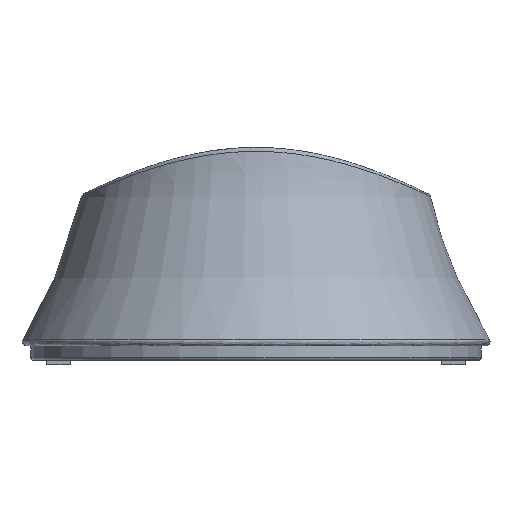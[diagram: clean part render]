
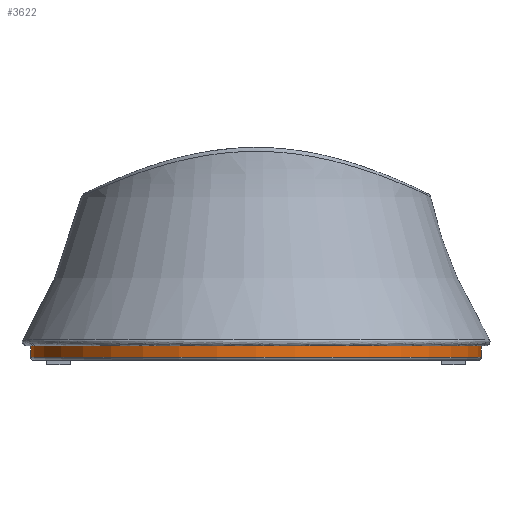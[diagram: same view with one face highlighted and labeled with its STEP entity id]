
A CAD part, front view. The second image highlights one B-rep face of the part: STEP entity #3622.
In plain terms, the highlighted cylindrical face has radius 15.65 mm (diameter 31.3 mm), a full revolution.
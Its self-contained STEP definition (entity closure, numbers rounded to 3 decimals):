
#1660 = PLANE('',#1661);
#1661 = AXIS2_PLACEMENT_3D('',#1662,#1663,#1664);
#1662 = CARTESIAN_POINT('',(0.,0.,149.));
#1663 = DIRECTION('',(0.,0.,1.));
#1664 = DIRECTION('',(1.,0.,-0.));
#2265 = EDGE_CURVE('',#2266,#2266,#2268,.T.);
#2266 = VERTEX_POINT('',#2267);
#2267 = CARTESIAN_POINT('',(15.65,0.,149.));
#2268 = SURFACE_CURVE('',#2269,(#2274,#2281),.PCURVE_S1.);
#2269 = CIRCLE('',#2270,15.65);
#2270 = AXIS2_PLACEMENT_3D('',#2271,#2272,#2273);
#2271 = CARTESIAN_POINT('',(0.,0.,149.));
#2272 = DIRECTION('',(0.,0.,1.));
#2273 = DIRECTION('',(1.,0.,-0.));
#2274 = PCURVE('',#1660,#2275);
#2275 = DEFINITIONAL_REPRESENTATION('',(#2276),#2280);
#2276 = CIRCLE('',#2277,15.65);
#2277 = AXIS2_PLACEMENT_2D('',#2278,#2279);
#2278 = CARTESIAN_POINT('',(0.,0.));
#2279 = DIRECTION('',(1.,-0.));
#2280 = ( GEOMETRIC_REPRESENTATION_CONTEXT(2) 
PARAMETRIC_REPRESENTATION_CONTEXT() REPRESENTATION_CONTEXT('2D SPACE',''
  ) );
#2281 = PCURVE('',#2282,#2287);
#2282 = CYLINDRICAL_SURFACE('',#2283,15.65);
#2283 = AXIS2_PLACEMENT_3D('',#2284,#2285,#2286);
#2284 = CARTESIAN_POINT('',(0.,0.,148.));
#2285 = DIRECTION('',(0.,0.,1.));
#2286 = DIRECTION('',(1.,0.,-0.));
#2287 = DEFINITIONAL_REPRESENTATION('',(#2288),#2292);
#2288 = LINE('',#2289,#2290);
#2289 = CARTESIAN_POINT('',(0.,1.));
#2290 = VECTOR('',#2291,1.);
#2291 = DIRECTION('',(1.,0.));
#2292 = ( GEOMETRIC_REPRESENTATION_CONTEXT(2) 
PARAMETRIC_REPRESENTATION_CONTEXT() REPRESENTATION_CONTEXT('2D SPACE',''
  ) );
#3622 = ADVANCED_FACE('',(#3623),#2282,.T.);
#3623 = FACE_BOUND('',#3624,.T.);
#3624 = EDGE_LOOP('',(#3625,#3654,#3675,#3676));
#3625 = ORIENTED_EDGE('',*,*,#3626,.T.);
#3626 = EDGE_CURVE('',#3627,#3627,#3629,.T.);
#3627 = VERTEX_POINT('',#3628);
#3628 = CARTESIAN_POINT('',(15.65,0.,148.2));
#3629 = SURFACE_CURVE('',#3630,(#3635,#3642),.PCURVE_S1.);
#3630 = CIRCLE('',#3631,15.65);
#3631 = AXIS2_PLACEMENT_3D('',#3632,#3633,#3634);
#3632 = CARTESIAN_POINT('',(0.,0.,148.2));
#3633 = DIRECTION('',(0.,0.,1.));
#3634 = DIRECTION('',(1.,0.,-0.));
#3635 = PCURVE('',#2282,#3636);
#3636 = DEFINITIONAL_REPRESENTATION('',(#3637),#3641);
#3637 = LINE('',#3638,#3639);
#3638 = CARTESIAN_POINT('',(0.,0.2));
#3639 = VECTOR('',#3640,1.);
#3640 = DIRECTION('',(1.,0.));
#3641 = ( GEOMETRIC_REPRESENTATION_CONTEXT(2) 
PARAMETRIC_REPRESENTATION_CONTEXT() REPRESENTATION_CONTEXT('2D SPACE',''
  ) );
#3642 = PCURVE('',#3643,#3648);
#3643 = TOROIDAL_SURFACE('',#3644,15.45,0.2);
#3644 = AXIS2_PLACEMENT_3D('',#3645,#3646,#3647);
#3645 = CARTESIAN_POINT('',(0.,0.,148.2));
#3646 = DIRECTION('',(-0.,-0.,-1.));
#3647 = DIRECTION('',(1.,0.,-0.));
#3648 = DEFINITIONAL_REPRESENTATION('',(#3649),#3653);
#3649 = LINE('',#3650,#3651);
#3650 = CARTESIAN_POINT('',(-0.,0.));
#3651 = VECTOR('',#3652,1.);
#3652 = DIRECTION('',(-1.,0.));
#3653 = ( GEOMETRIC_REPRESENTATION_CONTEXT(2) 
PARAMETRIC_REPRESENTATION_CONTEXT() REPRESENTATION_CONTEXT('2D SPACE',''
  ) );
#3654 = ORIENTED_EDGE('',*,*,#3655,.T.);
#3655 = EDGE_CURVE('',#3627,#2266,#3656,.T.);
#3656 = SEAM_CURVE('',#3657,(#3661,#3668),.PCURVE_S1.);
#3657 = LINE('',#3658,#3659);
#3658 = CARTESIAN_POINT('',(15.65,0.,148.));
#3659 = VECTOR('',#3660,1.);
#3660 = DIRECTION('',(0.,0.,1.));
#3661 = PCURVE('',#2282,#3662);
#3662 = DEFINITIONAL_REPRESENTATION('',(#3663),#3667);
#3663 = LINE('',#3664,#3665);
#3664 = CARTESIAN_POINT('',(0.,-0.));
#3665 = VECTOR('',#3666,1.);
#3666 = DIRECTION('',(0.,1.));
#3667 = ( GEOMETRIC_REPRESENTATION_CONTEXT(2) 
PARAMETRIC_REPRESENTATION_CONTEXT() REPRESENTATION_CONTEXT('2D SPACE',''
  ) );
#3668 = PCURVE('',#2282,#3669);
#3669 = DEFINITIONAL_REPRESENTATION('',(#3670),#3674);
#3670 = LINE('',#3671,#3672);
#3671 = CARTESIAN_POINT('',(6.283,-0.));
#3672 = VECTOR('',#3673,1.);
#3673 = DIRECTION('',(0.,1.));
#3674 = ( GEOMETRIC_REPRESENTATION_CONTEXT(2) 
PARAMETRIC_REPRESENTATION_CONTEXT() REPRESENTATION_CONTEXT('2D SPACE',''
  ) );
#3675 = ORIENTED_EDGE('',*,*,#2265,.F.);
#3676 = ORIENTED_EDGE('',*,*,#3655,.F.);
